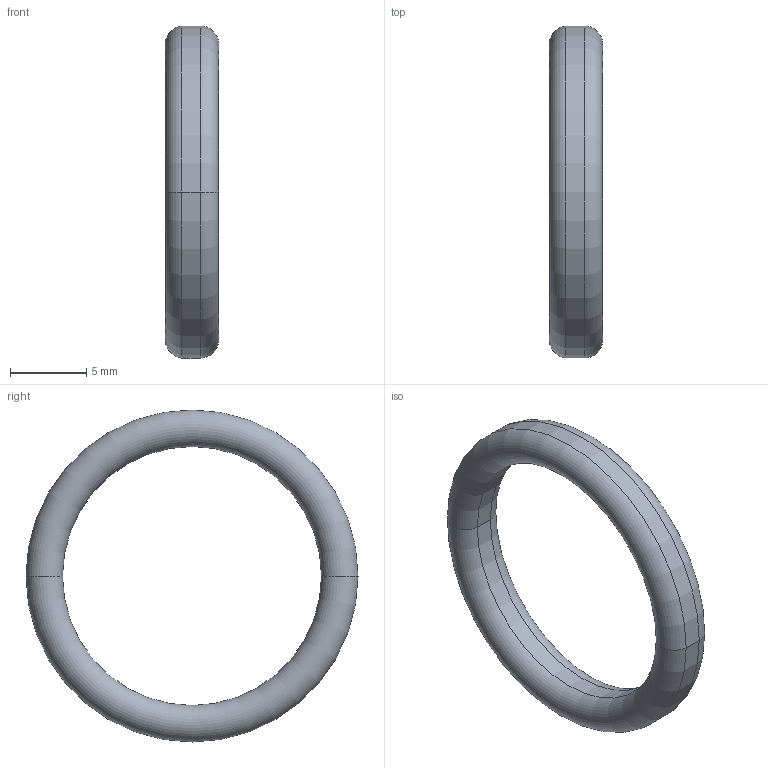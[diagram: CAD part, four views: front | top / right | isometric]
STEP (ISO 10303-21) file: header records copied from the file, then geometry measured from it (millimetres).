
FILE_DESCRIPTION((''),'2;1');
FILE_NAME('O-RING_DIN_3771-N-NBR_70','2022-06-13T16:21:07',('H041970'),(''),'CREO PARAMETRIC BY PTC INC, 2021284','CREO PARAMETRIC BY PTC INC, 2021284','');
FILE_SCHEMA(('CONFIG_CONTROL_DESIGN'));
Length unit declared in the file: millimetre
Products named in the file (1): O-RING_DIN_3771-N-NBR_70
Bounding box: 3.49 x 21.8 x 21.8 mm (x, y, z)
Volume: 437.1 mm3; surface area: 594 mm2
Topology: 1 solids, 1 shells, 8 faces, 17 edges, 10 vertices
Faces by surface type: torus 4, cylinder 4
Entity records: 264 total; most frequent: DIRECTION 47, CARTESIAN_POINT 34, ORIENTED_EDGE 32, AXIS2_PLACEMENT_3D 21, EDGE_CURVE 16, CIRCLE 12, VERTEX_POINT 8, EDGE_LOOP 8
